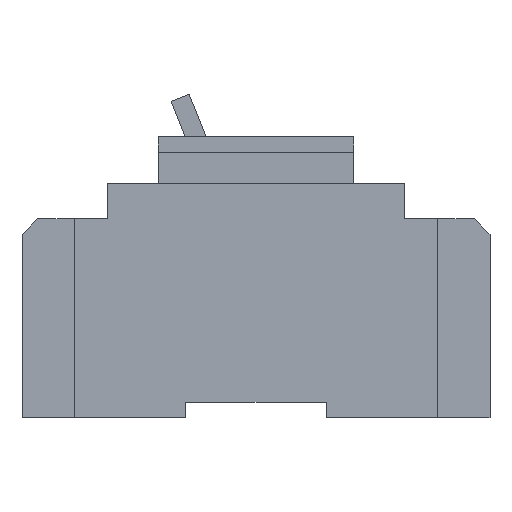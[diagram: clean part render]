
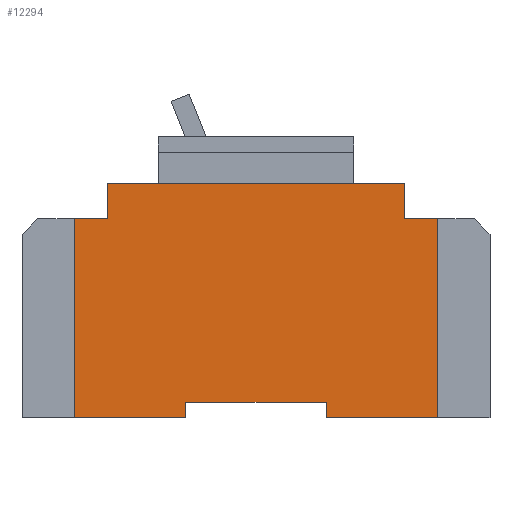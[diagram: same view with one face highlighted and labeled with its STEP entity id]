
A CAD part, left-side view. The second image highlights one B-rep face of the part: STEP entity #12294.
In plain terms, the highlighted planar face has unit normal (-1, 0, 0).
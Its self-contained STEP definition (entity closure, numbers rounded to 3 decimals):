
#25 = CARTESIAN_POINT ( 'NONE',  ( -37.5, 88.5, 51. ) ) ;
#26 = DIRECTION ( 'NONE',  ( 0., 0., 1. ) ) ;
#27 = VECTOR ( 'NONE', #26, 1000. ) ;
#28 = CARTESIAN_POINT ( 'NONE',  ( -37.5, 88.5, 0. ) ) ;
#29 = LINE ( 'NONE', #28, #27 ) ;
#77 = CARTESIAN_POINT ( 'NONE',  ( -37.5, 88.5, 0. ) ) ;
#78 = DIRECTION ( 'NONE',  ( 0., 1., 0. ) ) ;
#79 = VECTOR ( 'NONE', #78, 1000. ) ;
#80 = CARTESIAN_POINT ( 'NONE',  ( -37.5, 0., 0. ) ) ;
#81 = LINE ( 'NONE', #80, #79 ) ;
#86 = CARTESIAN_POINT ( 'NONE',  ( -37.5, 80., 51. ) ) ;
#5358 = CARTESIAN_POINT ( 'NONE',  ( -37.5, -4.5, 51. ) ) ;
#5359 = DIRECTION ( 'NONE',  ( 0., -1., 0. ) ) ;
#5360 = VECTOR ( 'NONE', #5359, 1000. ) ;
#5361 = CARTESIAN_POINT ( 'NONE',  ( -37.5, 0., 51. ) ) ;
#5362 = LINE ( 'NONE', #5361, #5360 ) ;
#5428 = DIRECTION ( 'NONE',  ( 0., 0., -1. ) ) ;
#5429 = VECTOR ( 'NONE', #5428, 1000. ) ;
#5430 = CARTESIAN_POINT ( 'NONE',  ( -37.5, 4., 0. ) ) ;
#5431 = LINE ( 'NONE', #5430, #5429 ) ;
#7889 = CARTESIAN_POINT ( 'NONE',  ( -37.5, 4., 51. ) ) ;
#7905 = DIRECTION ( 'NONE',  ( 0., 0., -1. ) ) ;
#7906 = DIRECTION ( 'NONE',  ( 1., 0., 0. ) ) ;
#7907 = CARTESIAN_POINT ( 'NONE',  ( -37.5, 0., 0. ) ) ;
#7908 = AXIS2_PLACEMENT_3D ( 'NONE', #7907, #7906, #7905 ) ;
#7910 = PLANE ( 'NONE',  #7908 ) ;
#7925 = FACE_OUTER_BOUND ( 'NONE', #12295, .T. ) ;
#7926 = DIRECTION ( 'NONE',  ( 0., 0., -1. ) ) ;
#7927 = VECTOR ( 'NONE', #7926, 1000. ) ;
#7928 = CARTESIAN_POINT ( 'NONE',  ( -37.5, -4.5, 0. ) ) ;
#7929 = LINE ( 'NONE', #7928, #7927 ) ;
#9708 = EDGE_CURVE ( 'NONE', #10242, #10204, #17693, .T. ) ;
#9726 = EDGE_CURVE ( 'NONE', #10204, #9727, #17739, .T. ) ;
#9727 = VERTEX_POINT ( 'NONE', #17735 ) ;
#9818 = EDGE_CURVE ( 'NONE', #9867, #9819, #17860, .T. ) ;
#9819 = VERTEX_POINT ( 'NONE', #17856 ) ;
#9866 = EDGE_CURVE ( 'NONE', #9886, #9867, #18049, .T. ) ;
#9867 = VERTEX_POINT ( 'NONE', #18081 ) ;
#9886 = VERTEX_POINT ( 'NONE', #18072 ) ;
#10093 = EDGE_CURVE ( 'NONE', #9819, #10094, #18536, .T. ) ;
#10094 = VERTEX_POINT ( 'NONE', #18532 ) ;
#10102 = EDGE_CURVE ( 'NONE', #10094, #10103, #18877, .T. ) ;
#10103 = VERTEX_POINT ( 'NONE', #18873 ) ;
#10111 = EDGE_CURVE ( 'NONE', #9727, #10112, #18811, .T. ) ;
#10112 = VERTEX_POINT ( 'NONE', #18807 ) ;
#10204 = VERTEX_POINT ( 'NONE', #86 ) ;
#10220 = EDGE_CURVE ( 'NONE', #10103, #10221, #81, .T. ) ;
#10221 = VERTEX_POINT ( 'NONE', #77 ) ;
#10241 = EDGE_CURVE ( 'NONE', #10221, #10242, #29, .T. ) ;
#10242 = VERTEX_POINT ( 'NONE', #25 ) ;
#12068 = EDGE_CURVE ( 'NONE', #10112, #12302, #5431, .T. ) ;
#12073 = ORIENTED_EDGE ( 'NONE', *, *, #9726, .F. ) ;
#12074 = ORIENTED_EDGE ( 'NONE', *, *, #9708, .F. ) ;
#12075 = ORIENTED_EDGE ( 'NONE', *, *, #10241, .F. ) ;
#12076 = ORIENTED_EDGE ( 'NONE', *, *, #10220, .F. ) ;
#12082 = EDGE_CURVE ( 'NONE', #12302, #12083, #5362, .T. ) ;
#12083 = VERTEX_POINT ( 'NONE', #5358 ) ;
#12086 = ORIENTED_EDGE ( 'NONE', *, *, #12082, .F. ) ;
#12087 = ORIENTED_EDGE ( 'NONE', *, *, #12068, .F. ) ;
#12088 = ORIENTED_EDGE ( 'NONE', *, *, #10111, .F. ) ;
#12283 = ORIENTED_EDGE ( 'NONE', *, *, #9866, .F. ) ;
#12284 = ORIENTED_EDGE ( 'NONE', *, *, #12290, .F. ) ;
#12290 = EDGE_CURVE ( 'NONE', #12083, #9886, #7929, .T. ) ;
#12294 = ADVANCED_FACE ( 'NONE', ( #7925 ), #7910, .F. ) ;
#12295 = EDGE_LOOP ( 'NONE', ( #12086, #12087, #12088, #12073, #12074, #12075, #12076, #12299, #12300, #12301, #12283, #12284 ) ) ;
#12299 = ORIENTED_EDGE ( 'NONE', *, *, #10102, .F. ) ;
#12300 = ORIENTED_EDGE ( 'NONE', *, *, #10093, .F. ) ;
#12301 = ORIENTED_EDGE ( 'NONE', *, *, #9818, .F. ) ;
#12302 = VERTEX_POINT ( 'NONE', #7889 ) ;
#17690 = DIRECTION ( 'NONE',  ( 0., -1., 0. ) ) ;
#17691 = VECTOR ( 'NONE', #17690, 1000. ) ;
#17692 = CARTESIAN_POINT ( 'NONE',  ( -37.5, 0., 51. ) ) ;
#17693 = LINE ( 'NONE', #17692, #17691 ) ;
#17735 = CARTESIAN_POINT ( 'NONE',  ( -37.5, 80., 60. ) ) ;
#17736 = DIRECTION ( 'NONE',  ( 0., 0., 1. ) ) ;
#17737 = VECTOR ( 'NONE', #17736, 1000. ) ;
#17738 = CARTESIAN_POINT ( 'NONE',  ( -37.5, 80., 0. ) ) ;
#17739 = LINE ( 'NONE', #17738, #17737 ) ;
#17856 = CARTESIAN_POINT ( 'NONE',  ( -37.5, 24., 4. ) ) ;
#17857 = DIRECTION ( 'NONE',  ( 0., 0., 1. ) ) ;
#17858 = VECTOR ( 'NONE', #17857, 1000. ) ;
#17859 = CARTESIAN_POINT ( 'NONE',  ( -37.5, 24., 0. ) ) ;
#17860 = LINE ( 'NONE', #17859, #17858 ) ;
#18046 = DIRECTION ( 'NONE',  ( 0., 1., 0. ) ) ;
#18047 = VECTOR ( 'NONE', #18046, 1000. ) ;
#18048 = CARTESIAN_POINT ( 'NONE',  ( -37.5, 0., 0. ) ) ;
#18049 = LINE ( 'NONE', #18048, #18047 ) ;
#18072 = CARTESIAN_POINT ( 'NONE',  ( -37.5, -4.5, 0. ) ) ;
#18081 = CARTESIAN_POINT ( 'NONE',  ( -37.5, 24., 0. ) ) ;
#18532 = CARTESIAN_POINT ( 'NONE',  ( -37.5, 60., 4. ) ) ;
#18533 = DIRECTION ( 'NONE',  ( 0., 1., 0. ) ) ;
#18534 = VECTOR ( 'NONE', #18533, 1000. ) ;
#18535 = CARTESIAN_POINT ( 'NONE',  ( -37.5, 0., 4. ) ) ;
#18536 = LINE ( 'NONE', #18535, #18534 ) ;
#18807 = CARTESIAN_POINT ( 'NONE',  ( -37.5, 4., 60. ) ) ;
#18808 = DIRECTION ( 'NONE',  ( 0., -1., 0. ) ) ;
#18809 = VECTOR ( 'NONE', #18808, 1000. ) ;
#18810 = CARTESIAN_POINT ( 'NONE',  ( -37.5, 0., 60. ) ) ;
#18811 = LINE ( 'NONE', #18810, #18809 ) ;
#18873 = CARTESIAN_POINT ( 'NONE',  ( -37.5, 60., 0. ) ) ;
#18874 = DIRECTION ( 'NONE',  ( 0., 0., -1. ) ) ;
#18875 = VECTOR ( 'NONE', #18874, 1000. ) ;
#18876 = CARTESIAN_POINT ( 'NONE',  ( -37.5, 60., 0. ) ) ;
#18877 = LINE ( 'NONE', #18876, #18875 ) ;
